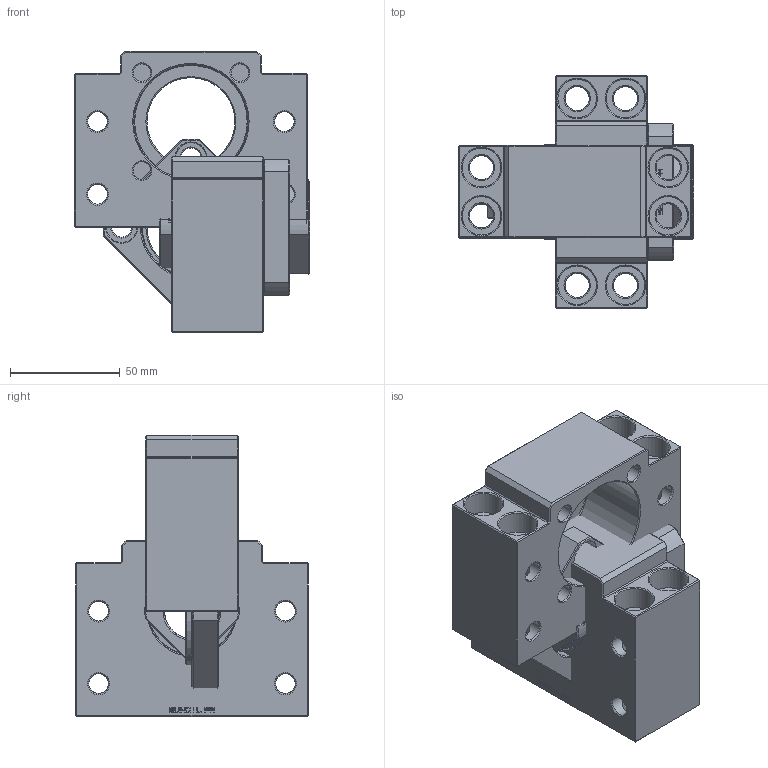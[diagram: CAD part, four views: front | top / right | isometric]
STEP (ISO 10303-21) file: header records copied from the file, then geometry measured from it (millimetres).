
FILE_DESCRIPTION( ( 'Unknown' ), '1' );
FILE_NAME( 'D:/3D/憮んお嶸棉/20060119/SBK TYPE/SBK25/SBK25.stp', 'Unknown', ( 'Unknown' ), ( 'Unknown' ), 'XStep 1.0', 'Unknown', ' ' );
FILE_SCHEMA( ( 'CONFIG_CONTROL_DESIGN' ) );
Length unit declared in the file: millimetre
Products named in the file (10): Assem1; SBK25(collar); SBK25(seal); SBK25(bearing); SBK25(housing); SBK25(locknut); SBK25(holdinglid)
Bounding box: 107 x 106 x 128 mm (x, y, z)
Volume: 617787.6 mm3; surface area: 171014 mm2
Topology: 18 solids, 18 shells, 1458 faces, 3814 edges, 2478 vertices
Faces by surface type: plane 704, cylinder 574, cone 176, bspline 2, torus 2
Full cylindrical faces by diameter (mm): 5 x2, 8 x8, 9 x32, 11 x8, 14 x8, 17.5 x8, 25 x10, 30 x8, 40 x8, 45 x2, 52 x8
Entity records: 23267 total; most frequent: CARTESIAN_POINT 5082, DIRECTION 3805, ORIENTED_EDGE 3468, EDGE_CURVE 1734, AXIS2_PLACEMENT_3D 1384, VERTEX_POINT 1191, LINE 1037, VECTOR 1037
